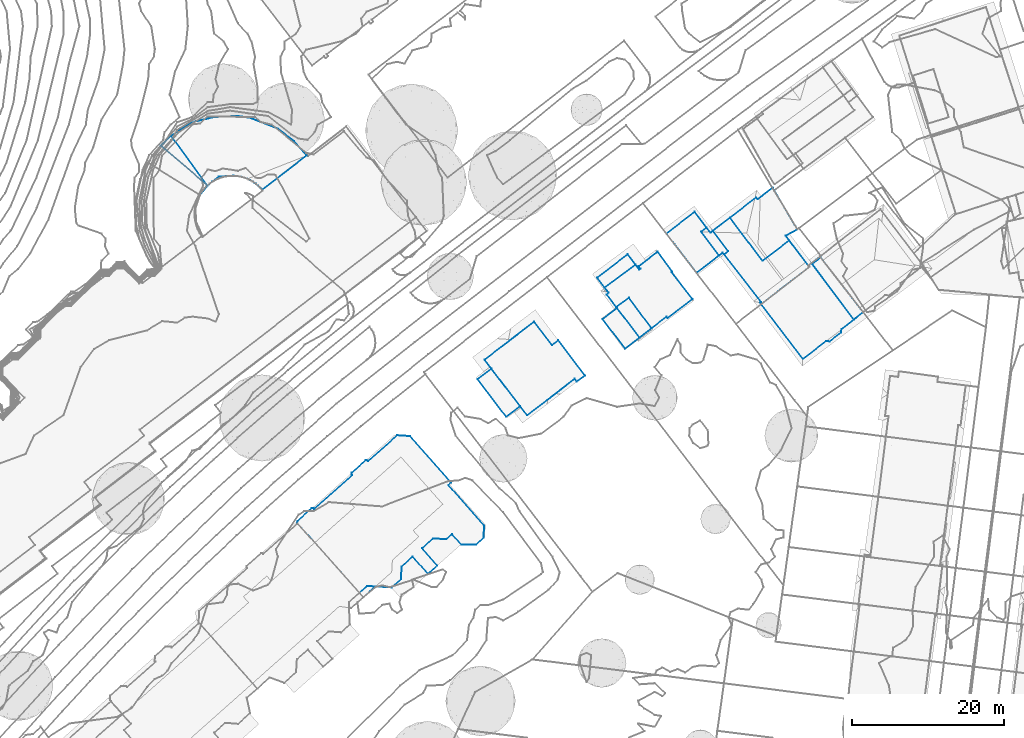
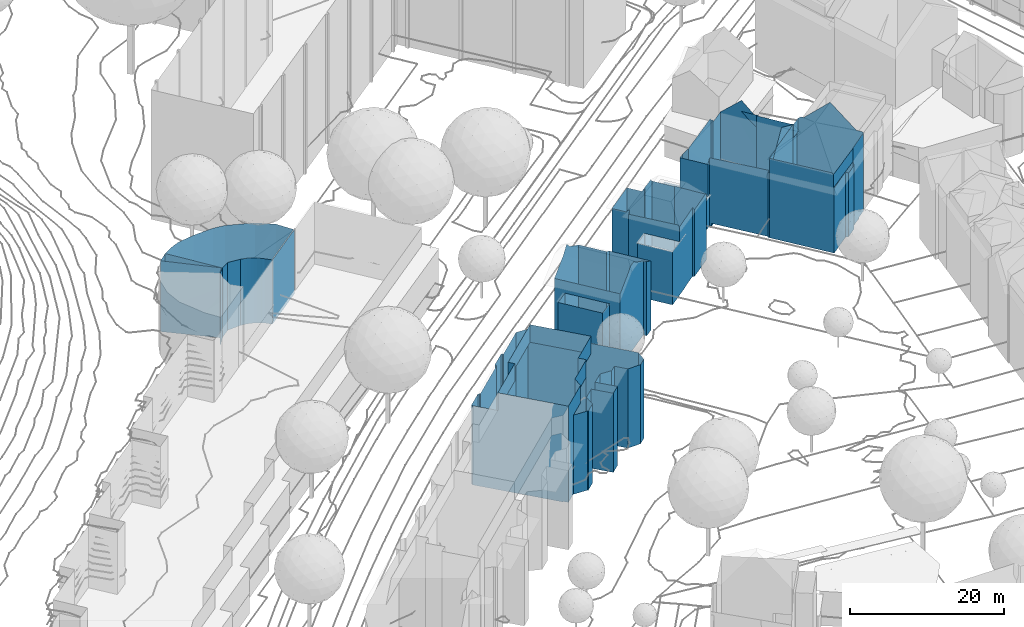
# Not in any storey, part 33 of 494: 8 walls.
"""IFC2X3 model written with IfcOpenShell, lengths in metres."""

from ifc_helpers import new_model, si_unit, frame, origin_with_axes, place, context, subcontext, project, faceted_brep, element, save


model = new_model("IFC2X3")

# Units and contexts
model_context = context("Model", 3, precision=1e-05, world=origin_with_axes())
body_context = subcontext(model_context, "Body", "Model", "MODEL_VIEW")
ifc_project = project(units=[si_unit("AREAUNIT", "SQUARE_METRE"), si_unit("LENGTHUNIT", "METRE")], contexts=[model_context])

# Walls
wall_1_placement = place(None, frame((365.5087320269, 90.6648160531, 499.5586), z_axis=(0.0, 0.0, 1.0), x_axis=(1.0, 0.0, 0.0)))
element("IfcWall", 1, at=wall_1_placement, Name="Wall 0", context=body_context, shape_type="Brep", body=[
    faceted_brep([(12.4389999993, -6.5107000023, 15.3595), (10.2949999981, -8.4140000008, 12.5588), (12.4389999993, -6.5107000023, 12.5588), (8.7309999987, -9.8016999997, 15.3595), (8.7309999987, -9.8016999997, 0.095), (10.2949999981, -8.4140000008, 0.095), (12.5339999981, -4.9149999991, 15.3595), (12.5339999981, -4.9149999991, 12.5588), (16.0089999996, -1.8310000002, 15.3595), (16.0089999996, -1.8310000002, 12.5588), (15.2800000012, -1.0097000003, 15.3595), (15.2800000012, -1.0097000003, 12.5588), (19.186999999, 2.4589999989, 15.3595), (19.186999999, 2.4589999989, 12.5588), (13.6550000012, 8.6895000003, 15.3595), (13.6550000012, 8.6895000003, 12.5588), (6.9290000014, 2.7188000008, 15.3595), (6.9290000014, 2.7188000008, 12.5588), (7.5280000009, 2.0439999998, 15.3595), (7.5280000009, 2.0439999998, 12.5588), (2.305999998, -2.5908000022, 15.3595), (2.305999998, -2.5908000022, 12.5588), (13.1970000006, 11.5372000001, 12.5588), (14.8920000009, 11.4208999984, 12.5588), (13.1970000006, 11.5372000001, 0.0), (9.3579999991, 8.1338, 12.5588), (9.3579999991, 8.1338, 0.0), (9.2780000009, 8.2236999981, 12.5588), (9.2780000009, 8.2236999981, 0.0), (9.0339999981, 8.2392999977, 12.5588), (9.0339999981, 8.2392999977, 0.0), (7.1680000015, 6.5830999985, 12.5588), (7.1680000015, 6.5830999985, 0.0), (7.1530000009, 6.3398999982, 12.5588), (7.1530000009, 6.3398999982, 0.0), (7.2329999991, 6.25, 12.5588), (7.2329999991, 6.25, 0.0), (2.2340000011, 1.8203999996, 12.5588), (2.2340000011, 1.8203999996, 0.0), (2.1539999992, 1.9101999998, 12.5588), (2.1539999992, 1.9101999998, 0.0), (1.9189999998, 1.9239000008, 12.5588), (1.9189999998, 1.9239000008, 0.0), (0.0219999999, 0.2402999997, 12.5588), (0.0219999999, 0.2402999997, 0.0), (0.0, 0.0, 12.5588), (0.0, 0.0, 0.0), (0.0769999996, -0.0908000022, 12.5588), (0.0769999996, -0.0908000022, 0.0), (12.4189999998, -8.5868999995, 12.5588), (12.3619999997, -8.5234000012, 12.5588), (12.4189999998, -8.5868999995, 0.0), (13.6900000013, -7.4580000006, 12.5588), (13.6900000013, -7.4580000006, 0.0), (13.7690000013, -5.7685000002, 12.5588), (13.7690000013, -5.7685000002, 0.0), (15.2329999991, -4.4648000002, 12.5588), (15.2329999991, -4.4648000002, 0.0), (17.2540000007, -6.7197000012, 12.5588), (17.2540000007, -6.7197000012, 0.0), (18.4820000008, -5.6297999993, 12.5588), (18.4820000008, -5.6297999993, 0.0), (16.4600000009, -3.3729999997, 12.5588), (16.4600000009, -3.3729999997, 0.0), (17.9169999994, -2.0751999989, 12.5588), (17.9169999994, -2.0751000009, 0.0), (19.625, -2.1845000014, 12.5588), (19.625, -2.1845000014, 0.0), (20.4100000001, -1.4862999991, 12.5588), (20.4100000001, -1.4862999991, 0.0), (21.6640000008, -2.8973999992, 12.5588), (21.6640000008, -2.8973999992, 0.0), (23.5819999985, -2.8584000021, 12.5588), (23.5819999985, -2.8584000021, 0.0), (24.5549999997, -1.9891999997, 12.5588), (24.5549999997, -1.9891999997, 0.0), (24.6719999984, -0.3662, 12.5588), (24.6719999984, -0.3662, 0.0), (19.9419999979, 4.9873999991, 12.5588), (19.9419999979, 4.9873999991, 0.0), (20.3209999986, 5.3242999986, 12.5588), (20.3209999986, 5.3242999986, 0.0), (14.8920000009, 11.4208999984, 0.0), (9.1849999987, -8.3553999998, 0.095), (8.2120000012, -9.2177000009, 0.0), (9.1849999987, -8.3553999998, 0.0), (12.3619999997, -8.5234000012, 0.0), (8.2109999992, -9.2186999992, 0.095)], [[[0, 1, 2]], [[1, 0, 3]], [[1, 4, 5]], [[4, 1, 3]], [[6, 0, 7]], [[8, 6, 9]], [[10, 8, 11]], [[12, 10, 13]], [[14, 12, 15]], [[16, 15, 17]], [[18, 17, 19]], [[20, 19, 21]], [[22, 23, 24]], [[25, 22, 26]], [[27, 25, 28]], [[29, 27, 30]], [[31, 29, 32]], [[33, 31, 34]], [[35, 33, 36]], [[37, 35, 38]], [[39, 37, 40]], [[41, 39, 42]], [[43, 41, 44]], [[45, 43, 46]], [[47, 45, 48]], [[49, 50, 51]], [[52, 49, 53]], [[54, 52, 55]], [[56, 54, 57]], [[58, 56, 59]], [[60, 58, 61]], [[62, 60, 63]], [[64, 62, 65]], [[66, 64, 67]], [[68, 66, 69]], [[70, 68, 71]], [[72, 70, 73]], [[74, 72, 75]], [[76, 74, 77]], [[78, 76, 79]], [[80, 78, 81]], [[23, 80, 82]], [[83, 84, 85]], [[86, 50, 5]], [[5, 50, 1]], [[5, 83, 85]], [[5, 85, 86]], [[4, 3, 87]], [[84, 87, 48]], [[3, 21, 87]], [[20, 21, 3]], [[47, 48, 21]], [[21, 48, 87]], [[0, 2, 7]], [[6, 7, 9]], [[8, 9, 11]], [[10, 11, 13]], [[12, 13, 15]], [[14, 15, 16]], [[16, 17, 18]], [[18, 19, 20]], [[23, 82, 24]], [[22, 24, 26]], [[25, 26, 28]], [[27, 28, 30]], [[29, 30, 32]], [[31, 32, 34]], [[33, 34, 36]], [[35, 36, 38]], [[37, 38, 40]], [[39, 40, 42]], [[41, 42, 44]], [[43, 44, 46]], [[45, 46, 48]], [[50, 86, 51]], [[49, 51, 53]], [[52, 53, 55]], [[54, 55, 57]], [[56, 57, 59]], [[58, 59, 61]], [[60, 61, 63]], [[62, 63, 65]], [[64, 65, 67]], [[66, 67, 69]], [[68, 69, 71]], [[70, 71, 73]], [[72, 73, 75]], [[74, 75, 77]], [[76, 77, 79]], [[78, 79, 81]], [[80, 81, 82]], [[87, 84, 83]]]),
])
wall_2_placement = place(None, frame((389.3167320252, 109.6180160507, 499.0156), z_axis=(0.0, 0.0, 1.0), x_axis=(1.0, 0.0, 0.0)))
element("IfcWall", 2, at=wall_2_placement, Name="Wall 0", context=body_context, shape_type="Brep", body=[
    faceted_brep([(12.8000000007, 0.0341000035, -0.032), (13.0810000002, -0.3320999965, 11.7299), (12.8000000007, 0.0341000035, 5.8495), (13.0810000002, -0.3320999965, -0.032), (14.1560000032, 0.4814000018, 10.965), (14.1560000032, 0.4814000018, -0.032), (10.6339999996, 5.1308000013, -0.032), (10.6339999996, 5.1308000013, 10.965), (7.443, 7.5722000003, 11.5719), (9.8150000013, 4.5029000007, 11.5509), (7.443, 7.5722000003, 8.6712), (7.443, 7.5722000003, -0.032), (7.443, 7.5722000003, 5.7565), (9.8150000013, 4.5029000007, -0.032), (0.0, 0.0, 9.6401), (1.807, 1.3857000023, 9.6401), (0.0, 0.0, 0.0), (3.7730000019, -4.9833999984, 9.6401), (3.7730000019, -4.9833999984, 0.0), (5.6060000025, -3.5771999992, 9.6401), (5.6060000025, -3.5771999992, 0.0), (0.9100000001, 2.5615000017, -0.032), (0.9100000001, 2.5615000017, 11.5769), (3.2840000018, 4.3828000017, -0.032), (4.1740000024, 5.0644000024, -0.032), (3.2840000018, 4.3828000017, 13.2738), (4.1740000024, 5.0644000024, 14.3297), (5.063000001, 5.7470000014, 13.2738), (12.8000000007, 0.0342000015, 11.7319), (10.6440000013, -1.620099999, 13.2738), (10.6590000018, -1.6083999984, -0.032), (8.8640000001, -2.9853999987, 13.2738), (9.2550000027, -2.6855999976, 13.7377), (9.2690000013, -2.673899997, -0.032), (6.5310000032, -4.7753999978, 11.6049), (6.5310000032, -4.7753999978, -0.032), (10.2460000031, -1.9247999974, 13.7447), (5.6060000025, -3.5771999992, 11.5969), (1.7340000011, 1.4814000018, 11.5789), (5.6060000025, -3.5771999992, -0.032), (1.807, 1.3857000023, 0.0), (1.6440000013, 1.5986000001, -0.032)], [[[0, 1, 2]], [[3, 1, 0]], [[4, 3, 5]], [[6, 7, 4]], [[5, 6, 4]], [[8, 9, 10]], [[11, 12, 13]], [[13, 12, 10]], [[14, 15, 16]], [[17, 14, 18]], [[19, 18, 20]], [[21, 22, 23]], [[24, 23, 12]], [[12, 11, 24]], [[22, 12, 23]], [[25, 26, 27]], [[25, 27, 10]], [[8, 10, 27]], [[22, 10, 12]], [[22, 25, 10]], [[28, 29, 2]], [[0, 2, 30]], [[2, 29, 31]], [[32, 31, 29]], [[33, 2, 31]], [[33, 31, 34]], [[2, 33, 30]], [[34, 35, 33]], [[29, 36, 32]], [[37, 38, 19]], [[34, 37, 19]], [[35, 19, 20]], [[19, 35, 34]], [[20, 39, 35]], [[40, 39, 20]], [[15, 19, 38]], [[15, 38, 22]], [[15, 22, 21]], [[40, 41, 39]], [[41, 40, 15]], [[15, 21, 41]], [[28, 2, 1]], [[1, 3, 4]], [[9, 7, 13]], [[13, 7, 6]], [[9, 13, 10]], [[15, 40, 16]], [[14, 16, 18]], [[17, 18, 19]]]),
])
wall_3_placement = place(None, frame((405.0787320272, 122.9930160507, 499.2066), z_axis=(0.0, 0.0, 1.0), x_axis=(1.0, 0.0, 0.0)))
element("IfcWall", 3, at=wall_3_placement, Name="Wall 0", context=body_context, shape_type="Brep", body=[
    faceted_brep([(7.9809999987, 3.4267000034, 10.213), (9.9129999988, 0.8252000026, 10.213), (7.9809999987, 3.4267000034, -0.126), (9.9129999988, 0.8252000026, -0.126), (0.9959999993, -1.2978999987, 0.0), (5.0779999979, 1.7256000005, 0.0), (0.9959999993, -1.2978999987, -0.126), (9.3090000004, -5.3173999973, 10.454), (9.1609999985, -5.1269999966, -0.126), (9.3090000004, -5.3173999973, 7.7333), (9.1609999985, -5.1269999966, 10.755), (1.5280000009, -1.9912, -0.126), (1.2509999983, -2.2060999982, -0.126), (1.2509999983, -2.2060999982, 10.704), (1.5280000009, -1.9912, 2.6988), (1.5280000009, -1.9912, 6.9344), (9.8220000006, 0.754900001, 10.366), (12.5799999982, -2.8007999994, 10.234), (9.8220000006, 0.754900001, -0.126), (12.5799999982, -2.8007999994, -0.126), (12.5799999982, -2.8007999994, 4.9885), (0.0, 0.0, 10.721), (4.0289999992, 3.0927000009, 10.721), (0.0, 0.0, 0.0), (5.4679999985, 1.4980000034, 6.4834), (5.6979999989, 1.1972000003, -0.126), (5.4679999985, 1.4980000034, 10.732), (5.4679999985, 1.4980000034, -0.126), (6.4250000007, 2.2324000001, 10.721), (6.432, 2.2226000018, 10.721), (6.4250000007, 2.2324000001, 10.706), (0.7219999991, -5.4570999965, 8.2642), (2.625, -3.9960999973, 8.2642), (0.7219999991, -5.4570999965, -0.206), (3.7120000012, -9.3544999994, 8.2642), (3.7120000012, -9.3544999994, -0.206), (4.1849999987, -2.6318999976, -0.126), (7.1750000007, -6.6679999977, -0.206), (4.1849999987, -2.6318999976, -0.206), (2.5229999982, -3.8632999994, -0.126), (2.5229999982, -3.8632999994, -0.206), (12.3969999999, -2.9423999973, 10.542), (9.3090000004, -5.3173999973, -0.126), (5.8830000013, 1.8154000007, 10.721), (7.7100000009, 3.2187000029, 10.672), (5.563000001, 1.0937000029, -0.126), (4.0289999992, 3.0927000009, 0.0), (5.0779999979, 1.7256000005, -0.126), (5.3249999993, 1.4033000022, 10.721), (5.563000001, 1.0937000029, 11.2089), (1.5280000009, -1.9912, 11.1709), (1.4620000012, -1.9042999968, 11.1689), (1.4620000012, -1.9042999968, -0.126), (1.243999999, -1.620099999, 10.721), (7.1750000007, -6.6679999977, -0.126), (5.6070000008, -7.8857999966, 8.2642), (2.625, -3.9960999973, -0.206), (5.6070000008, -7.8857999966, 10.63), (5.4959999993, -7.7402999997, 10.859), (2.574000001, -3.9296999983, 10.754), (5.6979999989, 1.1972000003, 11.2049)], [[[0, 1, 2]], [[1, 3, 2]], [[4, 5, 6]], [[7, 8, 9]], [[7, 10, 8]], [[11, 12, 13]], [[14, 13, 15]], [[16, 17, 18]], [[19, 18, 20]], [[1, 16, 18]], [[1, 18, 3]], [[21, 22, 23]], [[24, 25, 26]], [[27, 25, 24]], [[28, 29, 30]], [[31, 32, 33]], [[34, 31, 35]], [[36, 37, 38]], [[39, 36, 40]], [[41, 20, 17]], [[20, 41, 9]], [[20, 9, 19]], [[19, 9, 42]], [[41, 7, 9]], [[26, 43, 24]], [[2, 27, 24]], [[43, 30, 24]], [[28, 30, 43]], [[30, 44, 2]], [[0, 2, 44]], [[30, 2, 24]], [[5, 22, 45]], [[5, 46, 22]], [[45, 47, 5]], [[45, 22, 48]], [[49, 45, 48]], [[50, 51, 15]], [[4, 14, 15]], [[52, 11, 14]], [[51, 53, 15]], [[15, 21, 4]], [[4, 21, 23]], [[52, 4, 6]], [[52, 14, 4]], [[15, 53, 21]], [[8, 10, 54]], [[55, 34, 35]], [[55, 54, 10]], [[54, 35, 37]], [[35, 54, 55]], [[40, 56, 39]], [[32, 39, 56]], [[55, 57, 32]], [[32, 58, 59]], [[32, 12, 39]], [[12, 32, 59]], [[59, 13, 12]], [[32, 57, 58]], [[25, 49, 60]], [[45, 49, 25]], [[5, 47, 6]], [[42, 9, 8]], [[50, 15, 13]], [[11, 13, 14]], [[17, 20, 18]], [[22, 46, 23]], [[25, 60, 26]], [[32, 56, 33]], [[31, 33, 35]], [[54, 37, 36]], [[36, 38, 40]], [[57, 55, 10]]]),
])
wall_4_placement = place(None, frame((287.111732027, 46.2742160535, 500.3625), z_axis=(0.0, 0.0, 1.0), x_axis=(1.0, 0.0, 0.0)))
element("IfcWall", 4, at=wall_4_placement, Name="Wall 5", context=body_context, shape_type="Brep", body=[
    faceted_brep([(66.5370000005, 88.8905999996, 10.752), (66.5390000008, 88.8925999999, 10.753), (66.5350000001, 88.8886999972, 10.753), (66.5390000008, 88.8925999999, 2.4188), (66.5379999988, 88.8915999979, 2.4188), (66.5370000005, 88.8905999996, 3.8077), (66.5399000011, 88.8924999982, -0.3589), (66.5359999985, 88.8896999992, -0.3589), (66.5350999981, 88.8887999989, -0.3589), (61.7819999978, 95.4219000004, 10.7531), (61.7819999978, 95.4219000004, -0.3589), (60.3469999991, 94.1474999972, 10.877), (60.3469999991, 94.1474999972, -0.3589), (66.5399999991, 88.8925999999, 10.753)], [[[0, 1, 2]], [[3, 1, 4]], [[4, 1, 5]], [[6, 3, 4]], [[0, 2, 5]], [[4, 5, 7]], [[8, 5, 2]], [[8, 7, 5]], [[4, 7, 6]], [[9, 6, 10]], [[11, 9, 12]], [[2, 12, 8]], [[1, 0, 5]], [[1, 3, 6]], [[13, 6, 9]], [[9, 10, 12]], [[11, 12, 2]]]),
])
wall_5_placement = place(None, frame((287.111732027, 46.2742160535, 500.3625), z_axis=(0.0, 0.0, 1.0), x_axis=(1.0, 0.0, 0.0)))
element("IfcWall", 5, at=wall_5_placement, Name="Wall 6", context=body_context, shape_type="Brep", body=[
    faceted_brep([(65.557, 87.5995999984, 11.102), (65.5219999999, 87.6425999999, 11.101), (65.557, 87.5995999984, -0.3589), (66.557, 88.8691999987, 10.753), (66.557, 88.8691999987, -0.3589), (66.5080000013, 88.8662, 2.4178), (66.5249999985, 88.8808999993, 10.756), (66.5249999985, 88.8808999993, 2.4128), (66.4919999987, 88.8534999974, 10.765), (66.5069999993, 88.8652999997, 10.761), (66.4919999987, 88.8534999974, -0.3589), (66.5370000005, 88.8905999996, 10.753), (66.5359999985, 88.8896999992, -0.3589), (66.180999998, 88.5449000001, -0.3589), (65.8969999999, 88.2099999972, 10.956), (66.180999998, 88.5449000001, 10.861), (65.8969999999, 88.2099999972, -0.3589), (65.6440000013, 87.8515999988, -0.3589), (65.6440000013, 87.8515999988, 11.05), (65.5219999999, 87.6425999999, -0.3589), (66.5390000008, 88.8925999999, 10.753), (66.5390000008, 88.8915999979, -0.3589), (66.5399999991, 88.8925999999, -0.3589), (66.5370000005, 88.8906999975, 2.4188), (66.5379999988, 88.8915999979, 2.4188), (66.5390000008, 88.8925999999, 2.4188)], [[[0, 1, 2]], [[3, 2, 4]], [[5, 6, 7]], [[8, 9, 10]], [[6, 11, 7]], [[5, 7, 12]], [[11, 12, 7]], [[5, 12, 10]], [[8, 10, 13]], [[14, 15, 13]], [[16, 14, 13]], [[14, 16, 17]], [[18, 17, 1]], [[1, 17, 19]], [[20, 3, 21]], [[20, 21, 22]], [[23, 11, 24]], [[24, 20, 25]], [[11, 23, 12]], [[12, 23, 24]], [[24, 25, 22]], [[24, 22, 12]], [[1, 19, 2]], [[0, 2, 3]], [[9, 6, 5]], [[9, 5, 10]], [[13, 15, 8]], [[14, 17, 18]], [[3, 4, 21]], [[11, 20, 24]], [[20, 22, 25]]]),
])
wall_6_placement = place(None, frame((287.111732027, 46.2742160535, 500.3625), z_axis=(0.0, 0.0, 1.0), x_axis=(1.0, 0.0, 0.0)))
element("IfcWall", 6, at=wall_6_placement, Name="Wall 8", context=body_context, shape_type="Brep", body=[
    faceted_brep([(70.4869999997, 98.0429999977, 10.1411), (72.0909999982, 97.8105999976, 10.1411), (70.4869999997, 98.0429999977, -0.3589), (67.4470000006, 97.9140999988, 10.1411), (67.4470000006, 97.9140999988, -0.3589), (70.5249999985, 90.1064999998, 10.1021), (70.0929999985, 90.1484999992, -0.3589), (70.5249999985, 90.1064999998, -0.3589), (70.9539999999, 90.0293000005, -0.3589), (70.9539999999, 90.0293000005, 10.0681), (71.373999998, 89.9159999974, -0.3589), (71.373999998, 89.9159999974, 10.0341), (71.7829999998, 89.7665999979, -0.3589), (70.0929999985, 90.1484999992, 10.1351), (70.0219999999, 90.1699000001, -0.3589), (70.0219999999, 90.1699000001, 10.1411), (64.6579999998, 97.1983000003, 10.3571), (65.0579999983, 97.3466999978, 10.3241), (64.6579999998, 97.1983000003, -0.3589), (65.0579999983, 97.3466999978, -0.3589), (64.4250000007, 97.0888999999, -0.3589), (69.2219999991, 90.1132999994, 10.2451), (68.0170000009, 90.0361999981, -0.3589), (69.2219999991, 90.1132999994, -0.3589), (69.6559999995, 90.1464999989, 10.1891), (69.6559999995, 90.1464999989, -0.3589), (63.8220000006, 96.8057000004, -0.3589), (64.432, 97.0918000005, 10.3761), (63.8220000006, 96.8057000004, 10.4571), (61.7819999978, 95.4219000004, 10.7531), (61.7819999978, 95.4219000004, -0.3589), (68.0170000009, 90.0361999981, 10.4021), (67.1900000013, 89.3798999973, -0.3589), (66.5399999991, 88.8925999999, 10.753), (66.5399999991, 88.8925999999, -0.3589), (66.5390000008, 88.8915999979, 10.753), (66.5390000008, 88.8915999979, -0.3589), (66.557, 88.8691999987, 10.753), (66.557, 88.8691999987, -0.3589), (67.1900000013, 89.3798999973, 10.6001), (72.5549999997, 89.3642999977, 9.8991), (72.1779999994, 89.5821000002, 9.9531), (72.5549999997, 89.3642999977, -0.3589), (72.1779999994, 89.5821000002, -0.3589), (72.7749999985, 89.2109999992, -0.3589), (72.7749999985, 89.2109999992, 9.8641), (72.9890000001, 89.1044999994, 9.8361), (72.9890000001, 89.1044999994, -0.3589), (79.6539999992, 92.8544999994, 9.8361), (73.7740000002, 88.3290999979, 9.8361), (79.6539999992, 92.8544999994, -0.3589), (73.25, 88.8398999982, 9.8361), (73.25, 88.8398999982, -0.3589), (73.5579999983, 88.5312999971, 9.8361), (73.5579999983, 88.5312999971, -0.3589), (73.7740000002, 88.3290999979, -0.3589), (71.7829999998, 89.7665999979, 10.0041), (71.75, 89.7782999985, 10.0071), (78.0089999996, 94.7294999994, 10.1411), (78.0089999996, 94.7294999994, -0.3589), (71.7039999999, 89.7958999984, 10.0071), (75.7809999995, 96.3847999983, 10.1411), (75.7809999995, 96.3847999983, -0.3589), (72.0909999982, 97.8105999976, -0.3589)], [[[0, 1, 2]], [[3, 0, 4]], [[5, 6, 7]], [[8, 9, 5]], [[5, 7, 8]], [[10, 11, 8]], [[8, 11, 9]], [[11, 10, 12]], [[13, 14, 6]], [[14, 13, 15]], [[16, 17, 18]], [[19, 18, 17]], [[20, 16, 18]], [[19, 17, 3]], [[4, 19, 3]], [[21, 22, 23]], [[24, 23, 25]], [[15, 25, 14]], [[26, 27, 20]], [[28, 27, 26]], [[29, 28, 30]], [[28, 26, 30]], [[31, 32, 22]], [[33, 29, 34]], [[35, 33, 36]], [[37, 35, 38]], [[39, 38, 32]], [[40, 41, 42]], [[41, 43, 42]], [[44, 45, 42]], [[46, 44, 47]], [[48, 49, 50]], [[51, 46, 52]], [[53, 51, 54]], [[49, 53, 55]], [[12, 56, 57]], [[58, 48, 59]], [[60, 11, 12]], [[61, 58, 62]], [[1, 61, 63]], [[1, 63, 2]], [[0, 2, 4]], [[13, 6, 5]], [[27, 16, 20]], [[31, 22, 21]], [[21, 23, 24]], [[24, 25, 15]], [[39, 32, 31]], [[29, 30, 34]], [[33, 34, 36]], [[35, 36, 38]], [[37, 38, 39]], [[41, 56, 12]], [[43, 41, 12]], [[40, 42, 45]], [[45, 44, 46]], [[49, 55, 50]], [[46, 47, 52]], [[51, 52, 54]], [[53, 54, 55]], [[60, 12, 57]], [[48, 50, 59]], [[58, 59, 62]], [[61, 62, 63]]]),
])
wall_7_placement = place(None, frame((426.7187320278, 119.498816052, 512.4143), z_axis=(0.0, 0.0, 1.0), x_axis=(1.0, 0.0, 0.0)))
element("IfcWall", 7, at=wall_7_placement, Name="Wall 0", context=body_context, shape_type="Brep", body=[
    faceted_brep([(6.5769999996, 5.3770000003, -2.3577), (6.5769999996, 5.3770000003, -0.103), (6.6579999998, 5.2696000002, -2.2258), (6.6579999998, 5.2696000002, -0.103), (5.5309999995, -7.2148000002, -10.063), (8.5729999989, -4.8535000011, -12.5948), (5.5309999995, -7.2148000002, -4.8735), (5.5309999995, -7.2148000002, -12.5948), (9.0059999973, -4.9217999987, -12.5948), (9.0059999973, -4.9217999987, -2.5207), (8.5729999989, -4.8535000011, -2.2228), (6.6439999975, 5.4277999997, -12.4098), (6.7249999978, 5.3203000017, -12.4288), (6.6439999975, 5.4277999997, -12.5948), (6.7249999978, 5.3203000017, -12.4098), (12.2329999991, -2.0106999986, -12.5948), (10.5830000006, -3.3271000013, -2.2098), (10.5859999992, -3.2899999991, -0.081), (10.5830000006, -3.3271000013, -0.103), (10.5460000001, -3.7274999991, -12.5948), (10.5460000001, -3.7274999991, -2.4917), (10.5859999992, -3.2899999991, -6.7383), (10.5859999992, -3.2899000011, -12.5948), (7.8599999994, 6.1728999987, -12.4098), (7.8599999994, 6.1728999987, -0.103), (12.2329999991, -2.0106999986, -12.4288), (13.4690000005, -1.0507999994, -12.4288), (13.4690000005, -1.0507999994, -2.1288), (13.4679999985, -1.0516999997, -0.036), (6.2179999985, 5.1006000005, -12.5948), (6.3579999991, 4.9307000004, -12.5948), (6.3579999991, 4.9307000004, 0.134), (6.2179999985, 5.1006000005, 0.139), (8.5649999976, -4.8427000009, -2.2108), (5.4859999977, -7.1561999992, -0.103), (5.4859999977, -7.1561999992, -2.2098), (7.7679999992, 6.2910000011, -2.3737), (7.7679999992, 6.2910000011, -12.4098), (1.6629999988, 1.2890999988, 0.047), (3.231999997, 2.504900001, 2.2438), (0.0, 0.0, 0.0), (0.0810000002, 0.0625, 0.072), (0.0009999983, -0.0009000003, -2.2828), (3.2309999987, 2.5058999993, -12.5948), (0.0009999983, -0.0009000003, -12.5948), (8.0909999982, 5.875, -12.4288), (7.8599999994, 6.1728999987, -12.4288), (13.3479999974, -0.8973999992, -12.4288), (7.8599999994, 6.1728999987, -2.2258), (8.0909999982, 5.875, 0.208), (8.3399999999, 5.5547000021, 0.204), (10.6030000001, 2.6387000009, 3.5887), (12.8539999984, -0.2588, 0.125), (13.3479999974, -0.8973999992, 0.116), (5.5309999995, -7.2148000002, -2.2808), (5.3579999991, -6.9891999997, 0.061)], [[[0, 1, 2]], [[3, 2, 1]], [[4, 5, 6]], [[4, 7, 5]], [[8, 9, 5]], [[9, 10, 5]], [[11, 12, 13]], [[12, 11, 14]], [[13, 12, 15]], [[16, 17, 18]], [[19, 20, 9]], [[9, 8, 19]], [[17, 16, 21]], [[21, 16, 22]], [[16, 20, 22]], [[22, 20, 19]], [[14, 23, 12]], [[3, 24, 2]], [[25, 26, 21]], [[15, 25, 21]], [[21, 22, 15]], [[17, 27, 28]], [[17, 21, 27]], [[27, 21, 26]], [[29, 30, 31]], [[31, 32, 29]], [[16, 18, 33]], [[33, 18, 34]], [[35, 33, 34]], [[32, 1, 0]], [[0, 36, 29]], [[32, 0, 29]], [[37, 11, 36]], [[13, 29, 11]], [[11, 29, 36]], [[38, 39, 31]], [[40, 41, 42]], [[42, 41, 38]], [[38, 31, 42]], [[31, 30, 43]], [[43, 44, 31]], [[31, 44, 42]], [[23, 37, 36]], [[23, 36, 45]], [[36, 27, 45]], [[45, 46, 23]], [[27, 47, 45]], [[27, 36, 48]], [[24, 49, 50]], [[50, 51, 52]], [[52, 48, 50]], [[47, 27, 26]], [[52, 53, 28]], [[52, 28, 27]], [[52, 27, 48]], [[48, 24, 50]], [[6, 54, 35]], [[4, 6, 42]], [[42, 35, 55]], [[55, 35, 34]], [[42, 55, 40]], [[44, 7, 4]], [[4, 42, 44]], [[6, 35, 42]], [[10, 54, 5]], [[5, 54, 6]], [[12, 25, 15]], [[23, 46, 12]], [[24, 48, 2]]]),
])
wall_8_placement = place(None, frame((414.2377320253, 128.8357160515, 499.3706), z_axis=(0.0, 0.0, 1.0), x_axis=(1.0, 0.0, 0.0)))
element("IfcWall", 8, at=wall_8_placement, Name="Wall 0", context=body_context, shape_type="Brep", body=[
    faceted_brep([(14.6660000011, 1.8858000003, 12.9408), (16.1400000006, -0.0751999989, 12.9407), (16.1400000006, -0.0751999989, 10.763), (13.9790000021, 6.0322999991, 10.562), (14.0380000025, 5.9433999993, 0.261), (13.9790000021, 6.0322999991, 0.261), (16.194000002, -0.9316000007, 0.4489), (12.6410000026, -3.6015000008, 0.4489), (16.194000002, -0.9316000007, 0.261), (12.4820000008, -9.3377999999, 10.7609), (12.3480000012, -9.1611000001, 10.7599), (12.4820000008, -9.3377999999, 5.6044), (12.3480000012, -9.1611000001, 0.4489), (12.4820000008, -9.3377999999, 0.4489), (6.9299999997, -2.9043000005, 10.125), (4.5710000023, 0.2364000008, 5.0155), (6.9299999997, -2.9043000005, 5.0155), (12.4979999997, -9.0438999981, 10.9699), (12.4979999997, -9.0438999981, 0.4489), (4.5710000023, 0.2364000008, 10.125), (5.2790000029, 0.7675999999, 10.125), (0.0, 0.0, 5.0155), (3.6920000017, 2.8438000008, 5.0155), (0.0, 0.0, 0.0), (1.0840000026, -1.4442999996, 5.0155), (1.0840000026, -1.4442999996, 0.0), (3.9649999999, -5.1884000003, 5.0155), (3.9649999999, -5.1884000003, 0.0), (8.1280000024, -2.3574000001, 0.449), (7.5850000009, -2.7645999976, 0.449), (8.1280000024, -2.3574000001, 0.0), (6.1000000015, 0.3428000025, 0.449), (6.1000000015, 0.3428000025, 0.0), (17.2589999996, 0.5439999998, 0.261), (17.2589999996, 0.5439999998, 10.606), (15.7190000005, -0.307599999, 0.261), (15.9890000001, -0.1590999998, 13.0327), (15.7190000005, -0.307599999, 13.1957), (18.7039999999, -4.2333999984, 13.1827), (18.8390000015, -4.4061999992, 13.1777), (18.7039999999, -4.2333999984, 0.4489), (18.8390000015, -4.4061999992, 0.4489), (12.0089999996, 4.5146999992, 0.261), (11.824000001, 4.7520000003, 0.261), (11.824000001, 4.7520000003, 10.856), (12.0089999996, 4.5146999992, 10.85), (12.6410000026, -3.6015000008, 0.261), (10.3830000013, -0.5956999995, 0.449), (8.3660000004, 2.0888999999, 0.261), (8.3660000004, 2.0888999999, 0.449), (15.6009999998, 3.3233000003, 0.261), (14.0380000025, 5.9433999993, 10.66), (15.6009999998, 3.3233000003, 13.4627), (15.7120000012, -6.8310000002, 0.4489), (15.7120000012, -6.8310000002, 15.2875), (12.1900000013, 4.6553000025, 10.587), (7.4070000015, -2.5370999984, 10.791), (7.4070000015, -2.5370999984, 0.0), (7.5850000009, -2.7645999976, 0.0), (3.6920000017, 2.8438000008, 0.0), (5.7880000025, 0.1026000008, 0.0), (5.2790000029, 0.7675999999, 5.0155), (5.7149999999, 0.1983000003, 11.1129), (5.7880000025, 0.1026000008, 11.1139), (5.9030000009, 0.192400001, 11.2749), (11.6180000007, 4.5938000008, 11.1549)], [[[0, 1, 2]], [[3, 4, 5]], [[6, 7, 8]], [[9, 10, 11]], [[10, 12, 13]], [[14, 15, 16]], [[12, 10, 17]], [[17, 18, 12]], [[19, 20, 15]], [[21, 22, 23]], [[24, 21, 25]], [[26, 24, 27]], [[28, 29, 30]], [[31, 28, 32]], [[33, 34, 35]], [[35, 34, 2]], [[1, 36, 2]], [[2, 37, 35]], [[37, 2, 36]], [[38, 39, 40]], [[41, 40, 39]], [[42, 43, 44]], [[44, 45, 42]], [[46, 7, 47]], [[47, 48, 46]], [[48, 47, 49]], [[50, 4, 51]], [[33, 50, 51]], [[51, 52, 34]], [[51, 34, 33]], [[37, 38, 35]], [[35, 38, 6]], [[40, 6, 38]], [[6, 8, 35]], [[13, 53, 11]], [[53, 41, 11]], [[39, 54, 9]], [[9, 11, 39]], [[39, 11, 41]], [[45, 55, 42]], [[5, 42, 55]], [[5, 55, 3]], [[56, 14, 16]], [[56, 16, 57]], [[27, 57, 16]], [[27, 16, 26]], [[29, 18, 17]], [[29, 56, 57]], [[58, 29, 57]], [[29, 17, 56]], [[59, 22, 60]], [[60, 22, 61]], [[20, 62, 63]], [[61, 63, 60]], [[63, 61, 20]], [[60, 31, 32]], [[31, 60, 63]], [[48, 49, 43]], [[31, 63, 49]], [[63, 64, 65]], [[44, 43, 49]], [[44, 63, 65]], [[44, 49, 63]], [[51, 4, 3]], [[7, 46, 8]], [[11, 10, 13]], [[19, 15, 14]], [[20, 61, 15]], [[22, 59, 23]], [[21, 23, 25]], [[24, 25, 27]], [[29, 58, 30]], [[28, 30, 32]]]),
])

save(model, "model.ifc")
